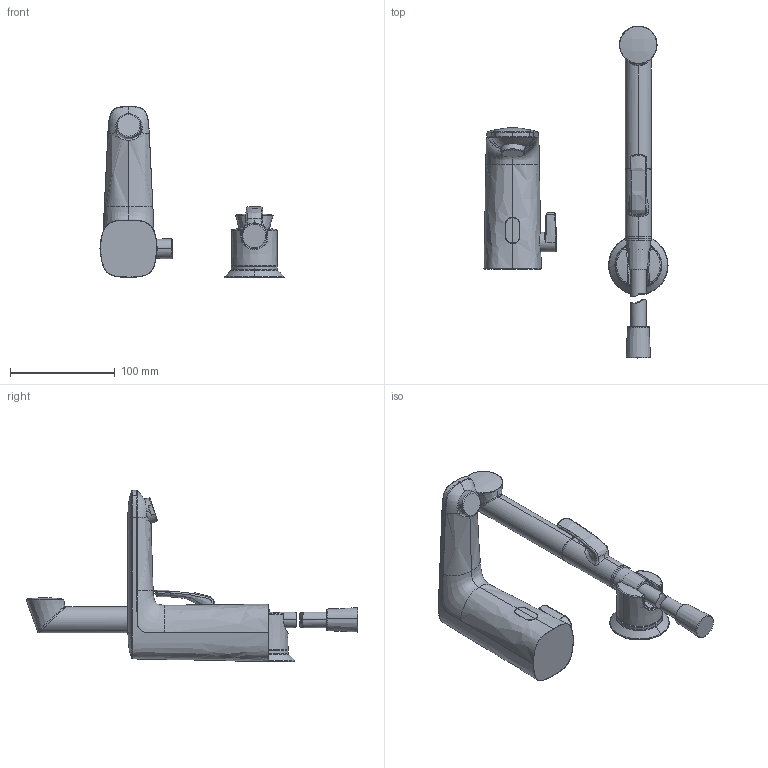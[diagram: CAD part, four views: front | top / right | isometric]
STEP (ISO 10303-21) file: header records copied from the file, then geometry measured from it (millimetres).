
FILE_DESCRIPTION (( 'STEP AP203' ), '1' );
FILE_NAME ('9212FZ(2023)+9212FZ-104(2023)+9212FZ-105(2023)+9222FZ(2023)+9222FZ-104(2023)+9222FZ-105(2023)+9232BFZ(2023).STEP', '2023-04-27T07:13:12', ( '' ), ( '' ), 'SwSTEP 2.0', 'SolidWorks 2016', '' );
FILE_SCHEMA (( 'CONFIG_CONTROL_DESIGN' ));
Products named in the file (1): 9212FZ(2023)+9212FZ-104(2023)+9212FZ-105(2023)+9222FZ(2023)+9222FZ-104(2023)+9222FZ-105(2023)+9232BFZ(2023)
Bounding box: 175.59 x 316.75 x 163.53 mm (x, y, z)
Volume: 615285.4 mm3; surface area: 88327.5 mm2
Topology: 11 solids, 11 shells, 319 faces, 761 edges, 468 vertices
Faces by surface type: bspline 203, plane 41, cylinder 38, torus 20, cone 17
Entity records: 43858 total; most frequent: CARTESIAN_POINT 37928, ORIENTED_EDGE 1516, DIRECTION 769, EDGE_CURVE 758, VERTEX_POINT 468, B_SPLINE_CURVE_WITH_KNOTS 410, AXIS2_PLACEMENT_3D 328, EDGE_LOOP 326
